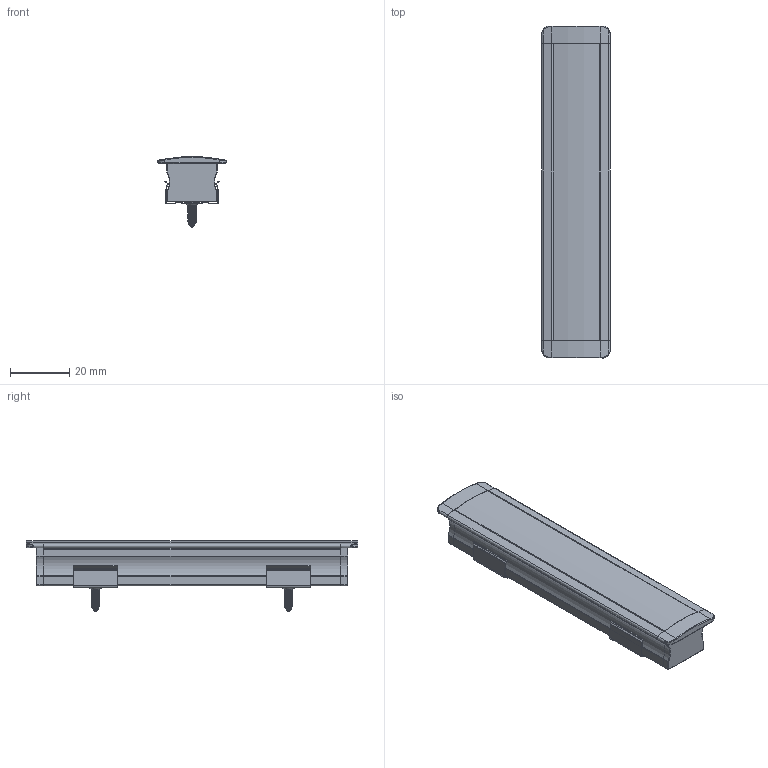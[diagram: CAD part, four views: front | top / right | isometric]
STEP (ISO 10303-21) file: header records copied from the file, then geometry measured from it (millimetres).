
FILE_DESCRIPTION(/* description */ (''),/* implementation_level */ '2;1');
FILE_NAME(/* name */ 'c:\worker\convert-fusion-r02\tmp\job-1\268\output\files\b756baaf-a2f9-4fa3-bd95-bb045a33cb96\80952c68-116a-49fc-b259-b5f538a5d218.stp',/* time_stamp */ '2022-03-30T12:52:56+00:00',/* author */ (''),/* organization */ (''),/* preprocessor_version */ 'ST-DEVELOPER v18.1',/* originating_system */ 'Autodesk Translation Framework v10.14.0.1471',/* authorisation */ '');
FILE_SCHEMA (('AUTOMOTIVE_DESIGN { 1 0 10303 214 3 1 1 }'));
Length unit declared in the file: millimetre
Products named in the file (8): CHAN-23145; End Cap; Aluminium Profile; Light Diffuser / Lens; End Cap w/ Cable Out; M3x6mm; LED Strip Light; Moutning Bracket
Assembly tree (10 placements, depth 2):
  CHAN-23145
    End Cap
    Aluminium Profile
    Light Diffuser / Lens
    End Cap w/ Cable Out
    M3x6mm  x2
    LED Strip Light  x2
    Moutning Bracket  x2
Bounding box: 23.1 x 111.84 x 23.79 mm (x, y, z)
Volume: 12899 mm3; surface area: 23096 mm2
Topology: 86 solids, 86 shells, 1080 faces, 2544 edges, 1640 vertices
Faces by surface type: plane 502, cylinder 384, bspline 70, sphere 64, torus 48, cone 12
Full cylindrical faces by diameter (mm): 2.356 x8, 2.927 x14, 3.2 x2
Entity records: 23039 total; most frequent: CARTESIAN_POINT 6915, DIRECTION 3395, ORIENTED_EDGE 3224, EDGE_CURVE 1612, AXIS2_PLACEMENT_3D 1253, VERTEX_POINT 1038, LINE 889, VECTOR 889
